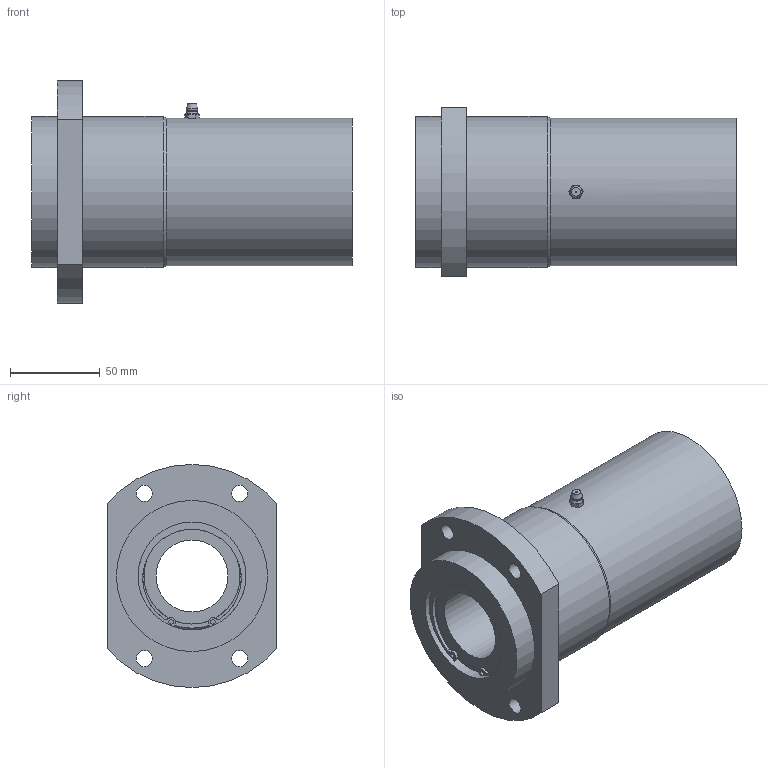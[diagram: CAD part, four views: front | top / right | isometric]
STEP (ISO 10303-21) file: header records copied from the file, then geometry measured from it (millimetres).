
FILE_DESCRIPTION((''),'2;1');
FILE_NAME('D:\製品 (図面)\カタログ用3D\リニアベアリング関連(改)\STEP形式\LFWB\LFWB40.stp','2010-01-22T16:28:51',('Tsuchiya'),(''),'Autodesk Inventor 10','Autodesk Inventor 10','');
FILE_SCHEMA(('AUTOMOTIVE_DESIGN { 1 0 10303 214 1 1 1 1 }'));
Length unit declared in the file: millimetre
Products named in the file (1): LFWB40
Bounding box: 178 x 94 x 124 mm (x, y, z)
Volume: 783375.8 mm3; surface area: 103454.6 mm2
Topology: 1 solids, 7 shells, 112 faces, 262 edges, 163 vertices
Faces by surface type: bspline 36, plane 34, cylinder 30, cone 8, sphere 2, torus 2
Full cylindrical faces by diameter (mm): 2.5 x2, 9 x4, 40 x2, 53.4 x2, 57 x2, 60 x8, 82 x1, 84 x2
Entity records: 3209 total; most frequent: CARTESIAN_POINT 903, DIRECTION 486, ORIENTED_EDGE 400, AXIS2_PLACEMENT_3D 221, EDGE_CURVE 200, EDGE_LOOP 188, VERTEX_POINT 144, CIRCLE 140
